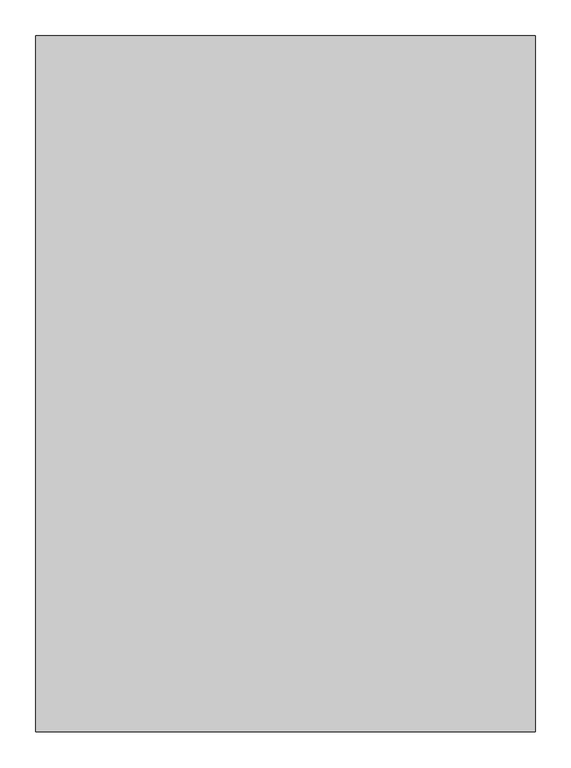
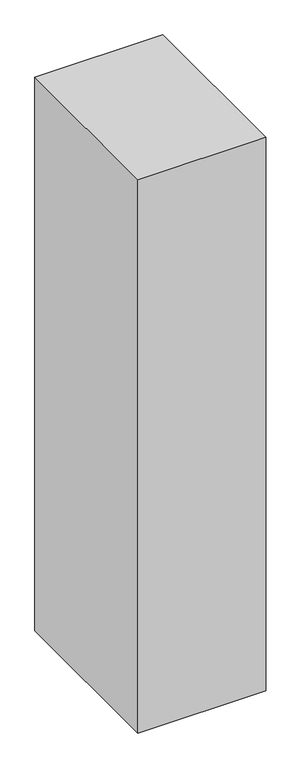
"""IFC4 building model written with IfcOpenShell, lengths in millimetres: column geometry, M_混凝土-矩形-柱 : RC柱70*97.5."""

from ifc_helpers import new_model, si_unit, frame, origin, place, context, project, spatial, polyline, outline, extrude, source, transform, mapped, element, save


def column_948f975f(model_context):
    return source(origin(), model_context, "Body", "SweptSolid", [
        extrude(outline(polyline([(350.0, 487.5), (350.0, -487.5), (-350.0, -487.5), (-350.0, 487.5), (350.0, 487.5)])), frame((0.0, 0.0, 8000.0), z_axis=(0.0, 0.0, 1.0), x_axis=(1.0, 0.0, 0.0)), (0.0, 0.0, 1.0), 3200.0),
    ])


if __name__ == "__main__":
    model = new_model("IFC4")
    model_context = context("Model", 3, world=origin())
    ifc_project = project(units=[si_unit("LENGTHUNIT", "METRE", prefix="MILLI")], contexts=[model_context])
    site = spatial("IfcSite", under=ifc_project)
    building = spatial("IfcBuilding", under=site)
    placement = place(None, origin())
    column_shape = column_948f975f(model_context)
    element("IfcColumn", 1, ObjectType="M_混凝土-矩形-柱 : RC柱70*97.5", at=placement, inside=building, context=model_context, shape_type="MappedRepresentation", body=[
        mapped(column_shape, transform((0.0, 0.0, 0.0), x_axis=(1.0, 0.0, 0.0), y_axis=(0.0, 1.0, 0.0), z_axis=(0.0, 0.0, 1.0))),
    ])
    save(model, "model.ifc")
